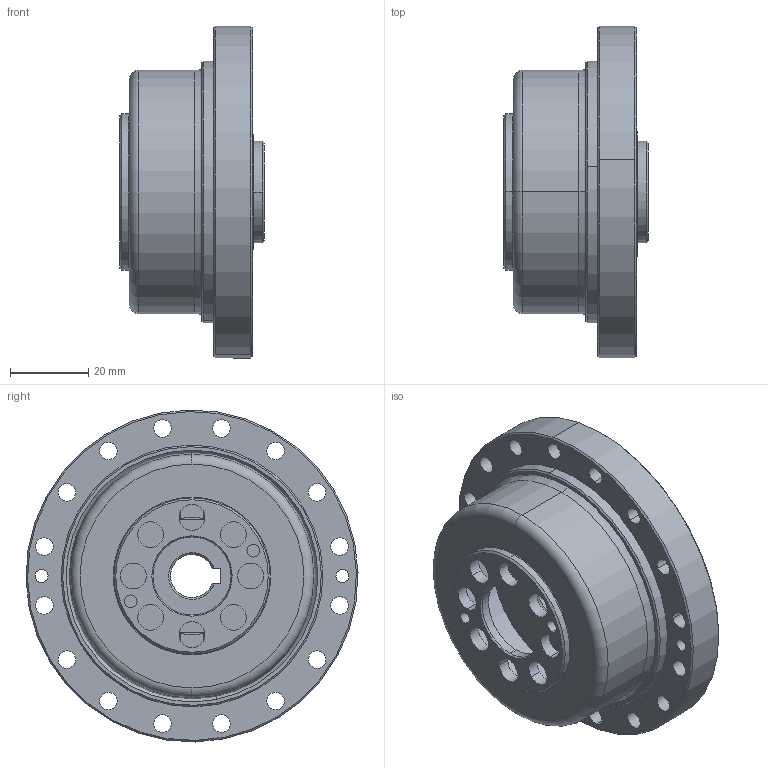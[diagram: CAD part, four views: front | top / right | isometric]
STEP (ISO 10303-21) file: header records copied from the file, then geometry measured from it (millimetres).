
FILE_DESCRIPTION (( 'STEP AP203' ), '1' );
FILE_NAME ('FCG-25-XXX-CO.STEP', '2020-04-20T04:27:31', ( '' ), ( '' ), 'SwSTEP 2.0', 'SolidWorks 2016', '' );
FILE_SCHEMA (( 'CONFIG_CONTROL_DESIGN' ));
Length unit declared in the file: millimetre
Products named in the file (1): FCG-25-XXX-CO
Bounding box: 37 x 84.98 x 84.98 mm (x, y, z)
Volume: 65947.8 mm3; surface area: 58248 mm2
Topology: 34 solids, 34 shells, 409 faces, 1099 edges, 721 vertices
Faces by surface type: cylinder 187, plane 112, sphere 46, cone 42, torus 22
Entity records: 12419 total; most frequent: DIRECTION 2378, CARTESIAN_POINT 2130, ORIENTED_EDGE 1968, AXIS2_PLACEMENT_3D 1012, EDGE_CURVE 984, VERTEX_POINT 652, CIRCLE 602, EDGE_LOOP 496
